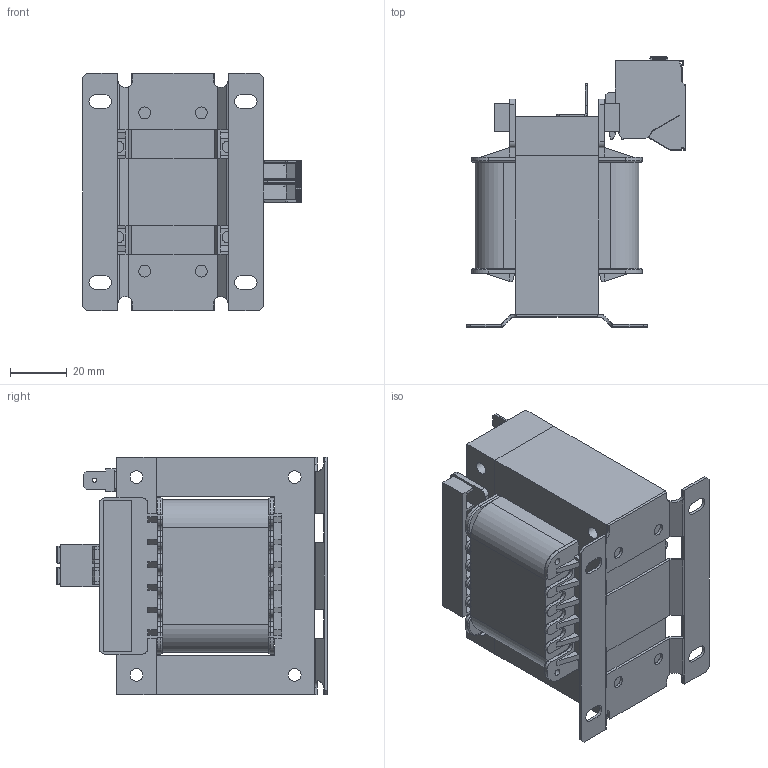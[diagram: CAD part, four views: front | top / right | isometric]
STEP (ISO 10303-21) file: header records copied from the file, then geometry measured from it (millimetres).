
FILE_DESCRIPTION (( 'STEP AP214' ), '1' );
FILE_NAME ('PMO-010.STEP', '2015-04-28T12:10:43', ( 'EDV' ), ( 'Microsoft' ), 'SwSTEP 2.0', 'SolidWorks 2014', '' );
FILE_SCHEMA (( 'AUTOMOTIVE_DESIGN' ));
Length unit declared in the file: millimetre
Products named in the file (7): +6700-0008; +2220-0010; Wickel EI84_29,5-1MS; EI84-29,5-1MS; EI84-29,5; PMO-010; BTK 4_2F orange +2202-0016
Assembly tree (6 placements, depth 2):
  PMO-010
    EI84-29,5
    EI84-29,5-1MS
    Wickel EI84_29,5-1MS
    +2220-0010
    +6700-0008
    BTK 4_2F orange +2202-0016
Bounding box: 77.45 x 95.65 x 84 mm (x, y, z)
Volume: 246902.8 mm3; surface area: 90555 mm2
Topology: 7 solids, 7 shells, 2572 faces, 7123 edges, 4612 vertices
Faces by surface type: plane 1962, cylinder 387, bspline 115, torus 108
Full cylindrical faces by diameter (mm): 1.5 x1, 2.316 x1, 2.5 x4, 4.2 x4, 4.5 x4, 4.805 x1, 5.205 x1
Entity records: 88713 total; most frequent: CARTESIAN_POINT 20000, ORIENTED_EDGE 14194, DIRECTION 12484, EDGE_CURVE 7097, VECTOR 5898, LINE 5898, VERTEX_POINT 4608, AXIS2_PLACEMENT_3D 3293
